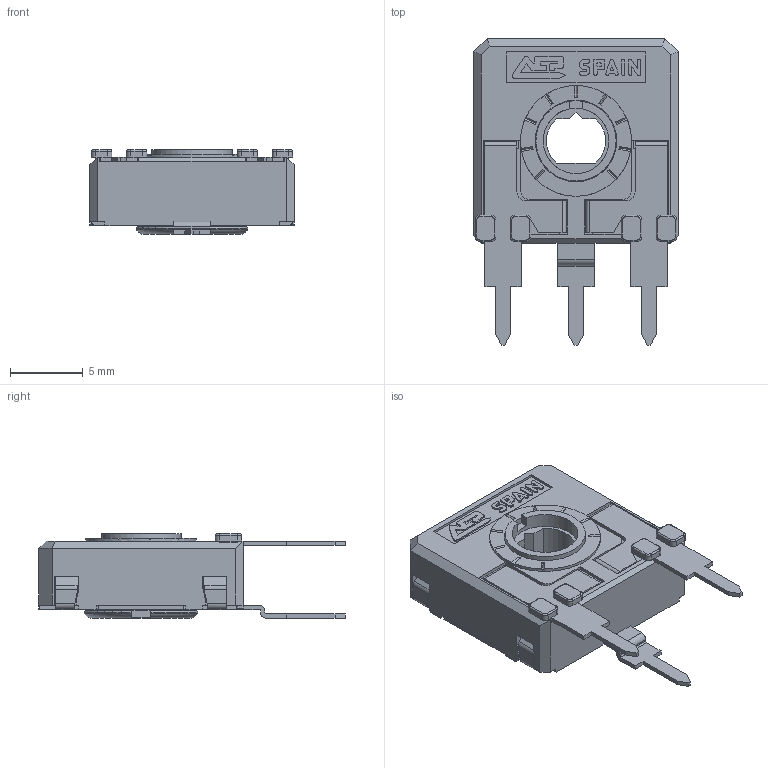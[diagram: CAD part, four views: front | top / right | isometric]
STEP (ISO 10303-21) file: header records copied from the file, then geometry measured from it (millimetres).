
FILE_DESCRIPTION(/* description */ (''),/* implementation_level */ '2;1');
FILE_NAME(/* name */ 'COMCA14KH5.stp',/* time_stamp */ '2026-04-01T16:59:57+02:00',/* author */ ('CEM'),/* organization */ (''),/* preprocessor_version */ 'ST-DEVELOPER v20.1',/* originating_system */ 'Autodesk Inventor 2026',/* authorisation */ '');
FILE_SCHEMA (('AUTOMOTIVE_DESIGN { 1 0 10303 214 3 1 1 }'));
Length unit declared in the file: millimetre
Products named in the file (1): CARCASA CA14 PGA
Bounding box: 14 x 21 x 5.8 mm (x, y, z)
Volume: 531 mm3; surface area: 1454.8 mm2
Topology: 1 solids, 1 shells, 669 faces, 1884 edges, 1211 vertices
Faces by surface type: plane 497, cylinder 135, torus 23, bspline 8, cone 6
Full cylindrical faces by diameter (mm): 4.5 x1, 5.5 x1, 5.6 x1, 5.752 x1, 6.8 x1, 7.6 x1
Entity records: 21797 total; most frequent: CARTESIAN_POINT 4062, ORIENTED_EDGE 3768, DIRECTION 3512, EDGE_CURVE 1884, LINE 1490, VECTOR 1490, VERTEX_POINT 1211, AXIS2_PLACEMENT_3D 1011
